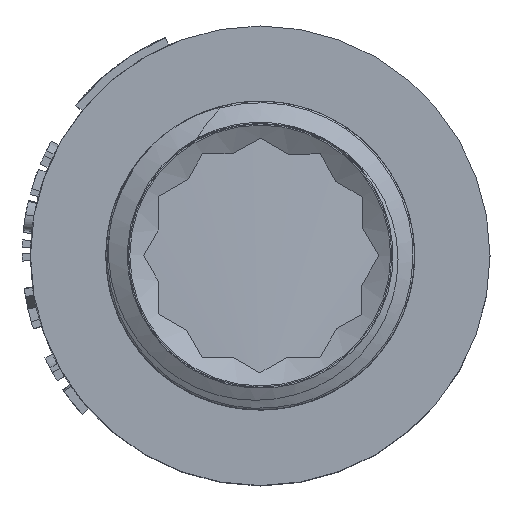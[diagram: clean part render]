
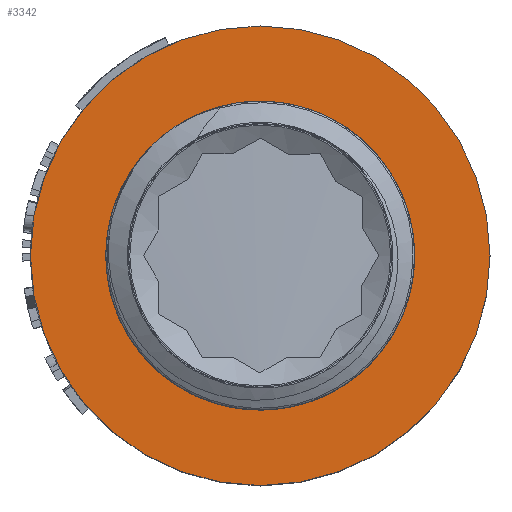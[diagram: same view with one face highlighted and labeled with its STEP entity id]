
A CAD part, top view. The second image highlights one B-rep face of the part: STEP entity #3342.
In plain terms, the highlighted planar face has unit normal (0, 0, 1).
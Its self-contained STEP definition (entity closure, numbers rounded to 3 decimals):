
#81=FACE_BOUND('',#745,.T.);
#395=PLANE('',#3587);
#546=FACE_OUTER_BOUND('',#744,.T.);
#744=EDGE_LOOP('',(#2894,#2895));
#745=EDGE_LOOP('',(#2896,#2897));
#1193=CIRCLE('',#3408,7.825);
#1196=CIRCLE('',#3411,7.825);
#1217=CIRCLE('',#3451,13.65);
#1218=CIRCLE('',#3452,13.65);
#1300=VERTEX_POINT('',#4318);
#1301=VERTEX_POINT('',#4319);
#1348=VERTEX_POINT('',#4566);
#1349=VERTEX_POINT('',#4567);
#1642=EDGE_CURVE('',#1300,#1301,#1193,.T.);
#1646=EDGE_CURVE('',#1301,#1300,#1196,.T.);
#1713=EDGE_CURVE('',#1348,#1349,#1217,.T.);
#1714=EDGE_CURVE('',#1349,#1348,#1218,.T.);
#2894=ORIENTED_EDGE('',*,*,#1713,.T.);
#2895=ORIENTED_EDGE('',*,*,#1714,.T.);
#2896=ORIENTED_EDGE('',*,*,#1642,.F.);
#2897=ORIENTED_EDGE('',*,*,#1646,.F.);
#3342=ADVANCED_FACE('',(#546,#81),#395,.T.);
#3408=AXIS2_PLACEMENT_3D('',#4320,#3647,#3648);
#3411=AXIS2_PLACEMENT_3D('',#4326,#3654,#3655);
#3451=AXIS2_PLACEMENT_3D('',#4568,#3770,#3771);
#3452=AXIS2_PLACEMENT_3D('',#4569,#3772,#3773);
#3587=AXIS2_PLACEMENT_3D('',#6488,#4184,#4185);
#3647=DIRECTION('center_axis',(0.,0.,1.));
#3648=DIRECTION('ref_axis',(1.,0.,0.));
#3654=DIRECTION('center_axis',(0.,0.,1.));
#3655=DIRECTION('ref_axis',(1.,0.,0.));
#3770=DIRECTION('center_axis',(0.,0.,1.));
#3771=DIRECTION('ref_axis',(1.,0.,0.));
#3772=DIRECTION('center_axis',(0.,0.,1.));
#3773=DIRECTION('ref_axis',(1.,0.,0.));
#4184=DIRECTION('center_axis',(0.,0.,1.));
#4185=DIRECTION('ref_axis',(1.,0.,0.));
#4318=CARTESIAN_POINT('',(0.,7.825,-10.));
#4319=CARTESIAN_POINT('',(0.,-7.825,-10.));
#4320=CARTESIAN_POINT('Origin',(0.,0.,-10.));
#4326=CARTESIAN_POINT('Origin',(0.,0.,-10.));
#4566=CARTESIAN_POINT('',(0.,-13.65,-10.));
#4567=CARTESIAN_POINT('',(0.,13.65,-10.));
#4568=CARTESIAN_POINT('Origin',(0.,0.,-10.));
#4569=CARTESIAN_POINT('Origin',(0.,0.,-10.));
#6488=CARTESIAN_POINT('Origin',(0.,-9.17,-10.));
